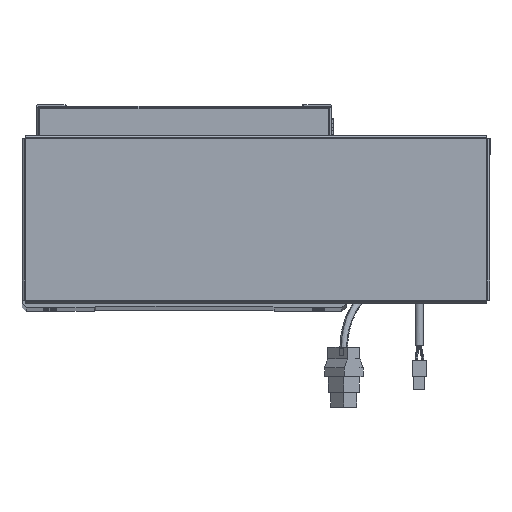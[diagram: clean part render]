
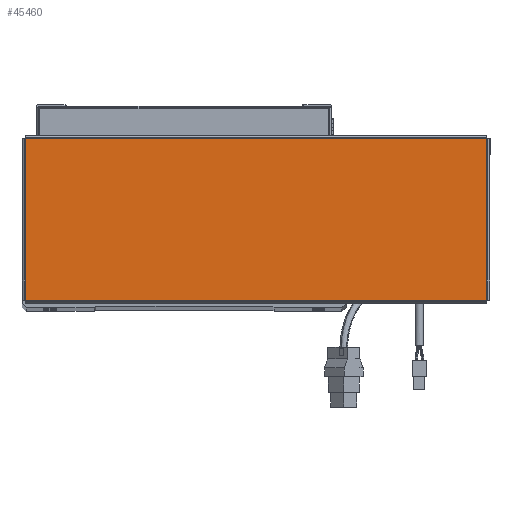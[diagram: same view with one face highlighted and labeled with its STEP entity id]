
A CAD part, top view. The second image highlights one B-rep face of the part: STEP entity #45460.
In plain terms, the highlighted planar face has unit normal (0, 0, 1).
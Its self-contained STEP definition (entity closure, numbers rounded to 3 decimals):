
#991 = PLANE ( 'NONE',  #57496 ) ;
#1425 = DIRECTION ( 'NONE',  ( 0., 0., 1. ) ) ;
#4070 = EDGE_CURVE ( 'NONE', #40286, #35908, #11904, .T. ) ;
#4108 = CARTESIAN_POINT ( 'NONE',  ( 156.543, 54.763, 0. ) ) ;
#5244 = ORIENTED_EDGE ( 'NONE', *, *, #67077, .T. ) ;
#5447 = EDGE_CURVE ( 'NONE', #35908, #11246, #30400, .T. ) ;
#6907 = CARTESIAN_POINT ( 'NONE',  ( 0., 0., 0. ) ) ;
#10458 = VECTOR ( 'NONE', #33751, 1000. ) ;
#11246 = VERTEX_POINT ( 'NONE', #58328 ) ;
#11904 = LINE ( 'NONE', #4108, #24115 ) ;
#12128 = DIRECTION ( 'NONE',  ( 0., 1., 0. ) ) ;
#17907 = CARTESIAN_POINT ( 'NONE',  ( -156.513, 54.763, 0. ) ) ;
#20684 = ORIENTED_EDGE ( 'NONE', *, *, #49801, .T. ) ;
#20920 = VECTOR ( 'NONE', #12128, 1000. ) ;
#22350 = ORIENTED_EDGE ( 'NONE', *, *, #4070, .T. ) ;
#22541 = LINE ( 'NONE', #27856, #20920 ) ;
#24115 = VECTOR ( 'NONE', #46925, 1000. ) ;
#24300 = LINE ( 'NONE', #48653, #10458 ) ;
#24584 = VECTOR ( 'NONE', #25630, 1000. ) ;
#24685 = ORIENTED_EDGE ( 'NONE', *, *, #5447, .T. ) ;
#25630 = DIRECTION ( 'NONE',  ( 0., -1., 0. ) ) ;
#27856 = CARTESIAN_POINT ( 'NONE',  ( 156.513, -54.793, 0. ) ) ;
#30400 = LINE ( 'NONE', #52252, #24584 ) ;
#32974 = FACE_OUTER_BOUND ( 'NONE', #65391, .T. ) ;
#33241 = DIRECTION ( 'NONE',  ( 1., 0., 0. ) ) ;
#33751 = DIRECTION ( 'NONE',  ( 1., 0., 0. ) ) ;
#34592 = CARTESIAN_POINT ( 'NONE',  ( 156.513, 54.763, 0. ) ) ;
#35908 = VERTEX_POINT ( 'NONE', #17907 ) ;
#37568 = CARTESIAN_POINT ( 'NONE',  ( 156.513, -54.763, 0. ) ) ;
#39234 = VERTEX_POINT ( 'NONE', #37568 ) ;
#40286 = VERTEX_POINT ( 'NONE', #34592 ) ;
#45460 = ADVANCED_FACE ( 'NONE', ( #32974 ), #991, .T. ) ;
#46925 = DIRECTION ( 'NONE',  ( -1., 0., 0. ) ) ;
#48653 = CARTESIAN_POINT ( 'NONE',  ( -156.543, -54.763, 0. ) ) ;
#49801 = EDGE_CURVE ( 'NONE', #39234, #40286, #22541, .T. ) ;
#52252 = CARTESIAN_POINT ( 'NONE',  ( -156.513, 54.793, 0. ) ) ;
#57496 = AXIS2_PLACEMENT_3D ( 'NONE', #6907, #1425, #33241 ) ;
#58328 = CARTESIAN_POINT ( 'NONE',  ( -156.513, -54.763, 0. ) ) ;
#65391 = EDGE_LOOP ( 'NONE', ( #5244, #20684, #22350, #24685 ) ) ;
#67077 = EDGE_CURVE ( 'NONE', #11246, #39234, #24300, .T. ) ;
